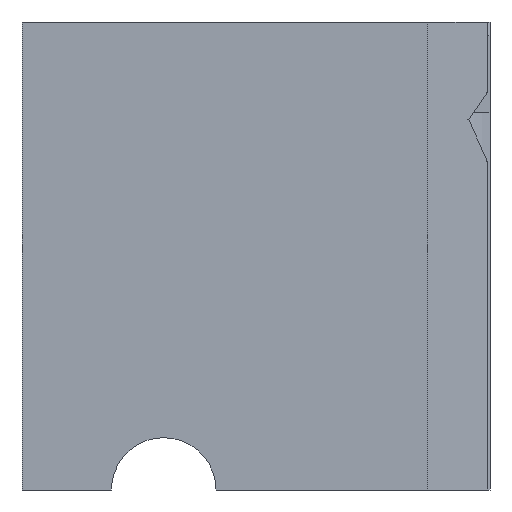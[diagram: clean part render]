
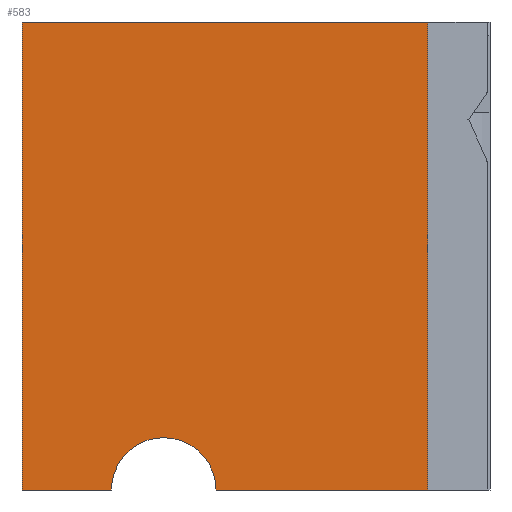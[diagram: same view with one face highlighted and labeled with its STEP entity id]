
A CAD part, left-side view. The second image highlights one B-rep face of the part: STEP entity #583.
In plain terms, the highlighted planar face has unit normal (-1, 0, 0).
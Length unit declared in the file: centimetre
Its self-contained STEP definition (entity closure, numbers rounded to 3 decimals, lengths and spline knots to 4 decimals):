
#59 = VECTOR ( 'NONE', #780, 100. ) ;
#105 = ORIENTED_EDGE ( 'NONE', *, *, #562, .F. ) ;
#118 = AXIS2_PLACEMENT_3D ( 'NONE', #815, #296, #638 ) ;
#158 = VERTEX_POINT ( 'NONE', #298 ) ;
#174 = LINE ( 'NONE', #767, #467 ) ;
#192 = CARTESIAN_POINT ( 'NONE',  ( 0., 1000., 0. ) ) ;
#194 = CARTESIAN_POINT ( 'NONE',  ( 0., 133.2117, 1000. ) ) ;
#225 = CARTESIAN_POINT ( 'NONE',  ( 0., 1000., 0. ) ) ;
#233 = VECTOR ( 'NONE', #292, 100. ) ;
#263 = EDGE_CURVE ( 'NONE', #598, #389, #1004, .T. ) ;
#277 = DIRECTION ( 'NONE',  ( 0., 0., -1. ) ) ;
#279 = ORIENTED_EDGE ( 'NONE', *, *, #515, .T. ) ;
#284 = VERTEX_POINT ( 'NONE', #591 ) ;
#292 = DIRECTION ( 'NONE',  ( 0., -1., 0. ) ) ;
#296 = DIRECTION ( 'NONE',  ( 1., 0., 0. ) ) ;
#298 = CARTESIAN_POINT ( 'NONE',  ( 0., 133.2117, 0. ) ) ;
#306 = ORIENTED_EDGE ( 'NONE', *, *, #506, .T. ) ;
#346 = DIRECTION ( 'NONE',  ( 0., 0., -1. ) ) ;
#349 = LINE ( 'NONE', #448, #233 ) ;
#356 = CARTESIAN_POINT ( 'NONE',  ( 0., 1000., 1000. ) ) ;
#389 = VERTEX_POINT ( 'NONE', #192 ) ;
#405 = DIRECTION ( 'NONE',  ( 0., -1., 0. ) ) ;
#420 = EDGE_CURVE ( 'NONE', #158, #554, #960, .T. ) ;
#448 = CARTESIAN_POINT ( 'NONE',  ( 0., 1000., 1000. ) ) ;
#455 = CARTESIAN_POINT ( 'NONE',  ( 0., 133.2117, 1000. ) ) ;
#467 = VECTOR ( 'NONE', #707, 100. ) ;
#506 = EDGE_CURVE ( 'NONE', #389, #284, #557, .T. ) ;
#515 = EDGE_CURVE ( 'NONE', #744, #158, #174, .T. ) ;
#554 = VERTEX_POINT ( 'NONE', #194 ) ;
#557 = LINE ( 'NONE', #225, #1097 ) ;
#562 = EDGE_CURVE ( 'NONE', #598, #554, #349, .T. ) ;
#583 = ADVANCED_FACE ( 'NONE', ( #674 ), #594, .F. ) ;
#591 = CARTESIAN_POINT ( 'NONE',  ( 0., 808.9733, 0. ) ) ;
#594 = PLANE ( 'NONE',  #1086 ) ;
#598 = VERTEX_POINT ( 'NONE', #816 ) ;
#629 = ORIENTED_EDGE ( 'NONE', *, *, #263, .T. ) ;
#638 = DIRECTION ( 'NONE',  ( 0., 0., -1. ) ) ;
#666 = ORIENTED_EDGE ( 'NONE', *, *, #726, .T. ) ;
#674 = FACE_OUTER_BOUND ( 'NONE', #709, .T. ) ;
#684 = DIRECTION ( 'NONE',  ( 1., 0., 0. ) ) ;
#707 = DIRECTION ( 'NONE',  ( 0., -1., 0. ) ) ;
#709 = EDGE_LOOP ( 'NONE', ( #306, #666, #279, #1031, #105, #629 ) ) ;
#726 = EDGE_CURVE ( 'NONE', #284, #744, #934, .T. ) ;
#744 = VERTEX_POINT ( 'NONE', #1079 ) ;
#767 = CARTESIAN_POINT ( 'NONE',  ( 0., 1000., 0. ) ) ;
#780 = DIRECTION ( 'NONE',  ( 0., 0., 1. ) ) ;
#815 = CARTESIAN_POINT ( 'NONE',  ( 0., 697.1676, 0. ) ) ;
#816 = CARTESIAN_POINT ( 'NONE',  ( 0., 1000., 1000. ) ) ;
#934 = CIRCLE ( 'NONE', #118, 111.8058 ) ;
#960 = LINE ( 'NONE', #455, #59 ) ;
#1004 = LINE ( 'NONE', #1093, #1068 ) ;
#1031 = ORIENTED_EDGE ( 'NONE', *, *, #420, .T. ) ;
#1068 = VECTOR ( 'NONE', #346, 100. ) ;
#1079 = CARTESIAN_POINT ( 'NONE',  ( 0., 585.3618, 0. ) ) ;
#1086 = AXIS2_PLACEMENT_3D ( 'NONE', #356, #684, #277 ) ;
#1093 = CARTESIAN_POINT ( 'NONE',  ( 0., 1000., 1000. ) ) ;
#1097 = VECTOR ( 'NONE', #405, 100. ) ;
